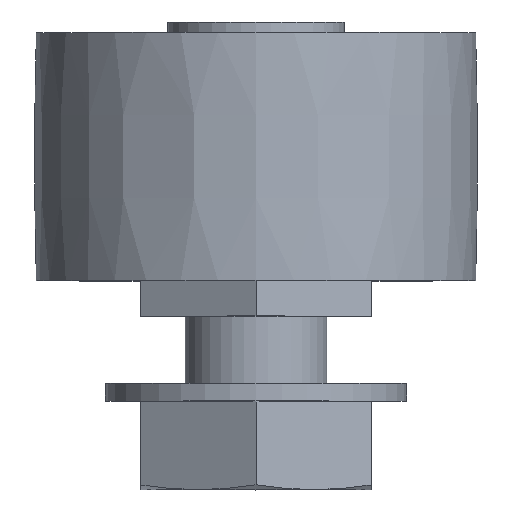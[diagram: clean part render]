
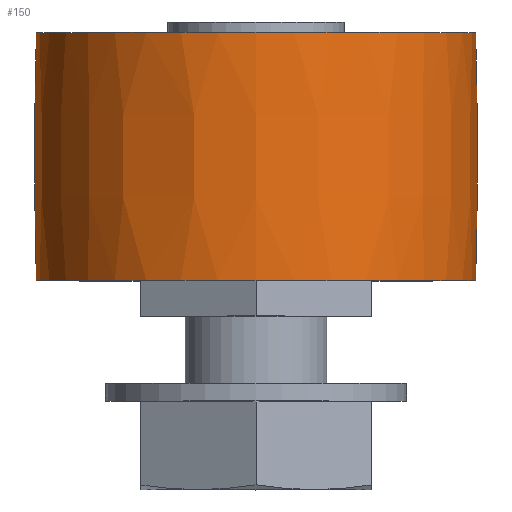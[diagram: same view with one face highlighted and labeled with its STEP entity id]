
A CAD part, top view. The second image highlights one B-rep face of the part: STEP entity #150.
In plain terms, the highlighted free-form (B-spline) face has degree [3, 3] with [4, 7] control points.
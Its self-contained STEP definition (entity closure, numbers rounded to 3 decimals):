
#150 = ADVANCED_FACE( '', ( #217, #218 ), #219, .T. );
#217 = FACE_OUTER_BOUND( '', #309, .T. );
#218 = FACE_OUTER_BOUND( '', #310, .T. );
#219 = ( BOUNDED_SURFACE(  )B_SPLINE_SURFACE( 3, 3, ( ( #313, #314, #315, #316, #317, #318, #319 ), ( #320, #321, #322, #323, #324, #325, #326 ), ( #327, #328, #329, #330, #331, #332, #333 ), ( #334, #335, #336, #337, #338, #339, #340 ) ), .UNSPECIFIED., .F., .T., .F. )B_SPLINE_SURFACE_WITH_KNOTS( ( 4, 4 ), ( 4, 3, 4 ), ( 0., 6.283 ), ( -0.028, 0., 0.028 ), .UNSPECIFIED. )GEOMETRIC_REPRESENTATION_ITEM(  )RATIONAL_B_SPLINE_SURFACE( ( ( 1., 0.333, 0.333, 1., 0.333, 0.333, 1. ), ( 1., 0.333, 0.333, 1., 0.333, 0.333, 1. ), ( 1., 0.333, 0.333, 1., 0.333, 0.333, 1. ), ( 1., 0.333, 0.333, 1., 0.333, 0.333, 1. ) ) )REPRESENTATION_ITEM( '' )SURFACE(  ) );
#309 = EDGE_LOOP( '', ( #511 ) );
#310 = EDGE_LOOP( '', ( #512 ) );
#313 = CARTESIAN_POINT( '', ( 0., 2., -12.402 ) );
#314 = CARTESIAN_POINT( '', ( 24.804, 2., -12.402 ) );
#315 = CARTESIAN_POINT( '', ( 24.804, 2., 12.402 ) );
#316 = CARTESIAN_POINT( '', ( 0., 2., 12.402 ) );
#317 = CARTESIAN_POINT( '', ( -24.804, 2., 12.402 ) );
#318 = CARTESIAN_POINT( '', ( -24.804, 2., -12.402 ) );
#319 = CARTESIAN_POINT( '', ( 0., 2., -12.402 ) );
#320 = CARTESIAN_POINT( '', ( 0., 6.666, -12.533 ) );
#321 = CARTESIAN_POINT( '', ( 25.065, 6.666, -12.533 ) );
#322 = CARTESIAN_POINT( '', ( 25.065, 6.666, 12.533 ) );
#323 = CARTESIAN_POINT( '', ( 0., 6.666, 12.533 ) );
#324 = CARTESIAN_POINT( '', ( -25.065, 6.666, 12.533 ) );
#325 = CARTESIAN_POINT( '', ( -25.065, 6.666, -12.533 ) );
#326 = CARTESIAN_POINT( '', ( 0., 6.666, -12.533 ) );
#327 = CARTESIAN_POINT( '', ( 0., 11.334, -12.533 ) );
#328 = CARTESIAN_POINT( '', ( 25.065, 11.334, -12.533 ) );
#329 = CARTESIAN_POINT( '', ( 25.065, 11.334, 12.533 ) );
#330 = CARTESIAN_POINT( '', ( 0., 11.334, 12.533 ) );
#331 = CARTESIAN_POINT( '', ( -25.065, 11.334, 12.533 ) );
#332 = CARTESIAN_POINT( '', ( -25.065, 11.334, -12.533 ) );
#333 = CARTESIAN_POINT( '', ( 0., 11.334, -12.533 ) );
#334 = CARTESIAN_POINT( '', ( 0., 16., -12.402 ) );
#335 = CARTESIAN_POINT( '', ( 24.804, 16., -12.402 ) );
#336 = CARTESIAN_POINT( '', ( 24.804, 16., 12.402 ) );
#337 = CARTESIAN_POINT( '', ( 0., 16., 12.402 ) );
#338 = CARTESIAN_POINT( '', ( -24.804, 16., 12.402 ) );
#339 = CARTESIAN_POINT( '', ( -24.804, 16., -12.402 ) );
#340 = CARTESIAN_POINT( '', ( 0., 16., -12.402 ) );
#511 = ORIENTED_EDGE( '', *, *, #703, .T. );
#512 = ORIENTED_EDGE( '', *, *, #704, .F. );
#703 = EDGE_CURVE( '', #816, #816, #817, .T. );
#704 = EDGE_CURVE( '', #818, #818, #819, .T. );
#816 = VERTEX_POINT( '', #988 );
#817 = CIRCLE( '', #989, 12.402 );
#818 = VERTEX_POINT( '', #990 );
#819 = CIRCLE( '', #991, 12.402 );
#988 = CARTESIAN_POINT( '', ( 0., 16., -12.402 ) );
#989 = AXIS2_PLACEMENT_3D( '', #1149, #1150, #1151 );
#990 = CARTESIAN_POINT( '', ( 0., 2., -12.402 ) );
#991 = AXIS2_PLACEMENT_3D( '', #1152, #1153, #1154 );
#1149 = CARTESIAN_POINT( '', ( 0., 16., 0. ) );
#1150 = DIRECTION( '', ( 0., -1., 0. ) );
#1151 = DIRECTION( '', ( 0., 0., -1. ) );
#1152 = CARTESIAN_POINT( '', ( 0., 2., 0. ) );
#1153 = DIRECTION( '', ( 0., -1., 0. ) );
#1154 = DIRECTION( '', ( 0., 0., -1. ) );
